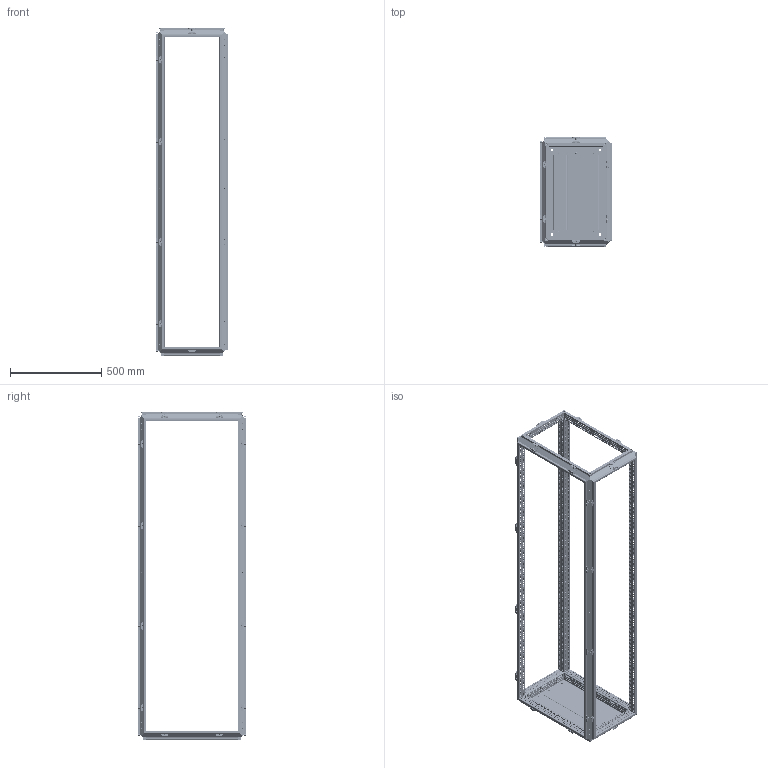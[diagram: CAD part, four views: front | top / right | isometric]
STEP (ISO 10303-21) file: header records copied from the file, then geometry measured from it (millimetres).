
FILE_DESCRIPTION(('STEP AP203'), '1');
FILE_NAME('3000 忺謤僔 捘', '', ('UNSPECIFIED'), ('UNSPECIFIED'), 'C3D Converter', 'C3D Toolkit', '');
FILE_SCHEMA(('CONFIG_CONTROL_DESIGN'));
Length unit declared in the file: millimetre
Products named in the file (12): 3000.180.60.40 СБ; 3000; 3007.175; 3007.75; 3009.04; 3009.04.01; 3009.04.2; 3009.04.01.2
Assembly tree (116 placements, depth 3):
  3000.180.60.40 СБ
    3000
    (unnamed)  x80
    3007.175
    (unnamed)  x6
    3007.75
    3009.04  x6
      3009.04.01
      (unnamed)
      (unnamed)
    3009.04.2  x12
      3009.04.01.2
      (unnamed)
      (unnamed)
Bounding box: 397 x 597 x 1798.5 mm (x, y, z)
Volume: 2963723.3 mm3; surface area: 3943792.5 mm2
Topology: 189 solids, 189 shells, 14151 faces, 39675 edges, 26168 vertices
Faces by surface type: plane 9879, cylinder 3508, cone 508, torus 220, bspline 36
Full cylindrical faces by diameter (mm): 4.134 x110, 4.5 x1580, 4.8 x6, 5 x116, 5.8 x30, 6.8 x160, 7 x80, 7.5 x36, 8 x80, 9.2 x36, 10.106 x8, 14 x4
Entity records: 329346 total; most frequent: CARTESIAN_POINT 60863, ORIENTED_EDGE 52950, DIRECTION 50153, EDGE_CURVE 26475, LINE 21679, VECTOR 21679, VERTEX_POINT 18606, EDGE_LOOP 17865
